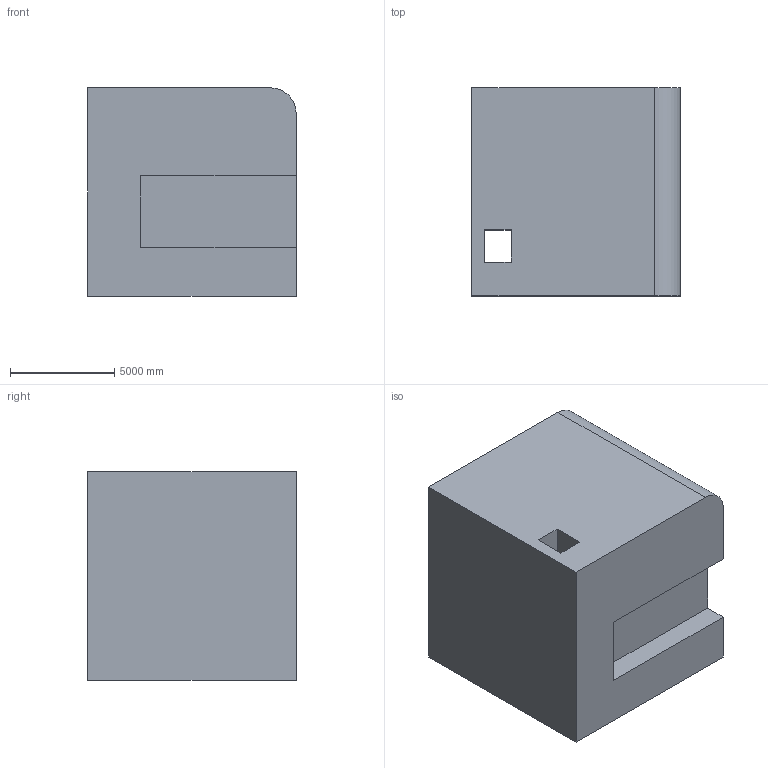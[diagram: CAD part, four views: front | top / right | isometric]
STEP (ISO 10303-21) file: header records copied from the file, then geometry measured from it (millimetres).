
FILE_DESCRIPTION (( 'STEP AP203' ), '1' );
FILE_NAME ('51.STEP', '2022-08-31T11:17:59', ( 'user' ), ( '' ), 'SwSTEP 2.0', 'SolidWorks 2021', '' );
FILE_SCHEMA (( 'CONFIG_CONTROL_DESIGN' ));
Length unit declared in the file: centimetre
Products named in the file (1): 51
Bounding box: 10000 x 10000 x 10000 mm (x, y, z)
Volume: 949730189761.2 mm3; surface area: 662570370.3 mm2
Topology: 1 solids, 1 shells, 15 faces, 39 edges, 26 vertices
Faces by surface type: plane 14, cylinder 1
Entity records: 536 total; most frequent: CARTESIAN_POINT 81, ORIENTED_EDGE 78, DIRECTION 73, EDGE_CURVE 39, LINE 37, VECTOR 37, VERTEX_POINT 26, AXIS2_PLACEMENT_3D 18
